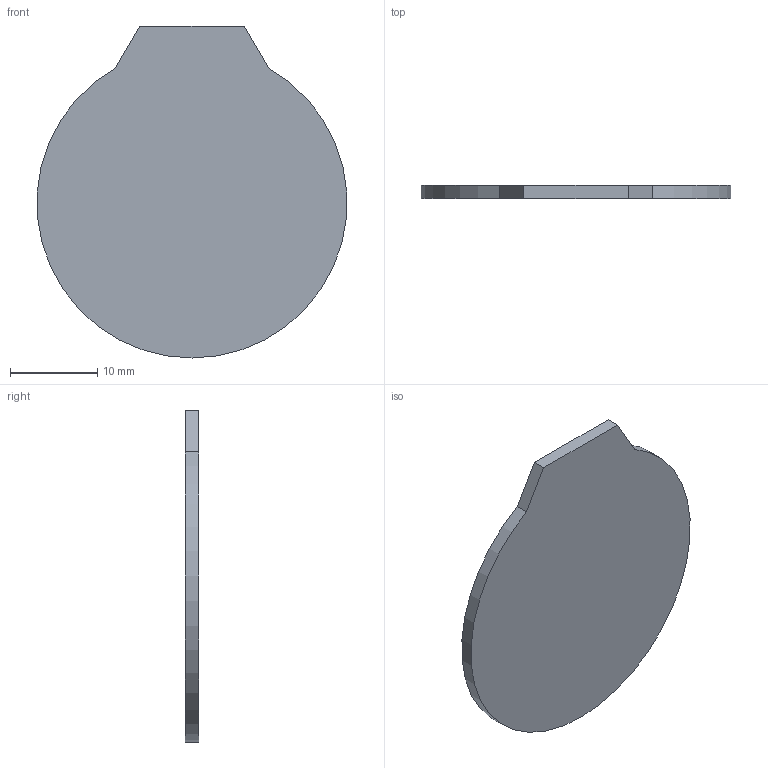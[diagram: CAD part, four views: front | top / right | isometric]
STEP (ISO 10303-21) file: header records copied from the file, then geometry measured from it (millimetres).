
FILE_DESCRIPTION (( 'STEP AP214' ), '1' );
FILE_NAME ('DM-TFTR128-446.STEP', '2022-08-29T08:08:51', ( '' ), ( '' ), 'SwSTEP 2.0', 'SolidWorks 2018', '' );
FILE_SCHEMA (( 'AUTOMOTIVE_DESIGN' ));
Length unit declared in the file: millimetre
Products named in the file (1): DM-TFTR128-446
Bounding box: 35.51 x 1.5 x 38.1 mm (x, y, z)
Volume: 1550.4 mm3; surface area: 2254.1 mm2
Topology: 1 solids, 1 shells, 10 faces, 21 edges, 14 vertices
Faces by surface type: plane 6, cylinder 4
Entity records: 307 total; most frequent: DIRECTION 51, CARTESIAN_POINT 46, ORIENTED_EDGE 42, EDGE_CURVE 21, AXIS2_PLACEMENT_3D 19, VERTEX_POINT 14, LINE 13, VECTOR 13
